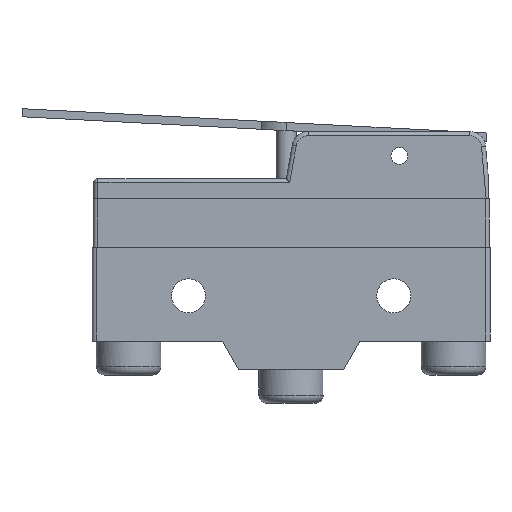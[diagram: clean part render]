
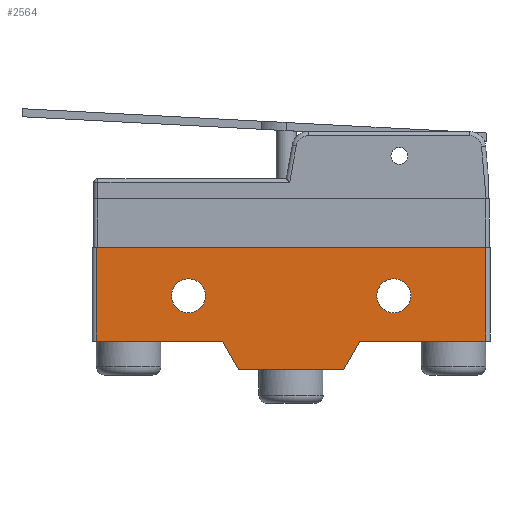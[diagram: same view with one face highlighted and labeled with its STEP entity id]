
A CAD part, left-side view. The second image highlights one B-rep face of the part: STEP entity #2564.
In plain terms, the highlighted planar face has unit normal (-1, 0, 0).
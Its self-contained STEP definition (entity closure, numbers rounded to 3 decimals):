
#67=FACE_BOUND('',#450,.T.);
#68=FACE_BOUND('',#451,.T.);
#157=PLANE('',#2799);
#295=FACE_OUTER_BOUND('',#449,.T.);
#449=EDGE_LOOP('',(#2239,#2240,#2241,#2242,#2243,#2244,#2245,#2246));
#450=EDGE_LOOP('',(#2247));
#451=EDGE_LOOP('',(#2248));
#461=LINE('',#3519,#702);
#466=LINE('',#3532,#707);
#482=LINE('',#3585,#723);
#487=LINE('',#3598,#728);
#692=LINE('',#4316,#933);
#695=LINE('',#4322,#936);
#698=LINE('',#4327,#939);
#699=LINE('',#4328,#940);
#702=VECTOR('',#2810,11.6);
#707=VECTOR('',#2821,15.6);
#723=VECTOR('',#2871,15.6);
#728=VECTOR('',#2884,11.6);
#933=VECTOR('',#3491,4.031);
#936=VECTOR('',#3496,4.031);
#939=VECTOR('',#3501,13.);
#940=VECTOR('',#3502,48.2);
#1020=CIRCLE('',#2775,2.1);
#1022=CIRCLE('',#2778,2.1);
#1026=VERTEX_POINT('',#3516);
#1027=VERTEX_POINT('',#3518);
#1032=VERTEX_POINT('',#3530);
#1051=VERTEX_POINT('',#3582);
#1052=VERTEX_POINT('',#3584);
#1056=VERTEX_POINT('',#3596);
#1240=VERTEX_POINT('',#4270);
#1242=VERTEX_POINT('',#4275);
#1248=VERTEX_POINT('',#4315);
#1250=VERTEX_POINT('',#4321);
#1253=EDGE_CURVE('',#1026,#1027,#461,.T.);
#1260=EDGE_CURVE('',#1026,#1032,#466,.T.);
#1285=EDGE_CURVE('',#1052,#1051,#482,.T.);
#1292=EDGE_CURVE('',#1056,#1051,#487,.T.);
#1571=EDGE_CURVE('',#1240,#1240,#1020,.T.);
#1573=EDGE_CURVE('',#1242,#1242,#1022,.T.);
#1590=EDGE_CURVE('',#1032,#1248,#692,.T.);
#1593=EDGE_CURVE('',#1250,#1052,#695,.T.);
#1596=EDGE_CURVE('',#1248,#1250,#698,.T.);
#1597=EDGE_CURVE('',#1056,#1027,#699,.T.);
#2239=ORIENTED_EDGE('',*,*,#1253,.F.);
#2240=ORIENTED_EDGE('',*,*,#1260,.T.);
#2241=ORIENTED_EDGE('',*,*,#1590,.T.);
#2242=ORIENTED_EDGE('',*,*,#1596,.T.);
#2243=ORIENTED_EDGE('',*,*,#1593,.T.);
#2244=ORIENTED_EDGE('',*,*,#1285,.T.);
#2245=ORIENTED_EDGE('',*,*,#1292,.F.);
#2246=ORIENTED_EDGE('',*,*,#1597,.T.);
#2247=ORIENTED_EDGE('',*,*,#1571,.T.);
#2248=ORIENTED_EDGE('',*,*,#1573,.T.);
#2564=ADVANCED_FACE('',(#295,#67,#68),#157,.F.);
#2775=AXIS2_PLACEMENT_3D('',#4271,#3431,#3432);
#2778=AXIS2_PLACEMENT_3D('',#4276,#3437,#3438);
#2799=AXIS2_PLACEMENT_3D('',#4326,#3499,#3500);
#2810=DIRECTION('',(0.,0.,1.));
#2821=DIRECTION('',(0.,-1.,0.));
#2871=DIRECTION('',(0.,-1.,0.));
#2884=DIRECTION('',(0.,0.,-1.));
#3431=DIRECTION('center_axis',(1.,0.,0.));
#3432=DIRECTION('ref_axis',(0.,0.,1.));
#3437=DIRECTION('center_axis',(1.,0.,0.));
#3438=DIRECTION('ref_axis',(0.,0.,1.));
#3491=DIRECTION('',(0.,-0.496,-0.868));
#3496=DIRECTION('',(0.,-0.496,0.868));
#3499=DIRECTION('center_axis',(1.,0.,0.));
#3500=DIRECTION('ref_axis',(0.,0.,-1.));
#3501=DIRECTION('',(0.,-1.,0.));
#3502=DIRECTION('',(0.,1.,0.));
#3516=CARTESIAN_POINT('',(0.,24.1,3.5));
#3518=CARTESIAN_POINT('',(0.,24.1,15.1));
#3519=CARTESIAN_POINT('',(0.,24.1,3.775));
#3530=CARTESIAN_POINT('',(0.,8.5,3.5));
#3532=CARTESIAN_POINT('',(0.,4.25,3.5));
#3582=CARTESIAN_POINT('',(0.,-24.1,3.5));
#3584=CARTESIAN_POINT('',(0.,-8.5,3.5));
#3585=CARTESIAN_POINT('',(0.,-12.3,3.5));
#3596=CARTESIAN_POINT('',(0.,-24.1,15.1));
#3598=CARTESIAN_POINT('',(0.,-24.1,11.325));
#4270=CARTESIAN_POINT('',(0.,-12.7,7.));
#4271=CARTESIAN_POINT('Origin',(0.,-12.7,9.1));
#4275=CARTESIAN_POINT('',(0.,12.7,7.));
#4276=CARTESIAN_POINT('Origin',(0.,12.7,9.1));
#4315=CARTESIAN_POINT('',(0.,6.5,0.));
#4316=CARTESIAN_POINT('',(0.,7.326,1.446));
#4321=CARTESIAN_POINT('',(0.,-6.5,0.));
#4322=CARTESIAN_POINT('',(0.,-8.326,3.196));
#4326=CARTESIAN_POINT('Origin',(0.,0.,7.55));
#4327=CARTESIAN_POINT('',(0.,24.6,0.));
#4328=CARTESIAN_POINT('',(0.,-24.6,15.1));
